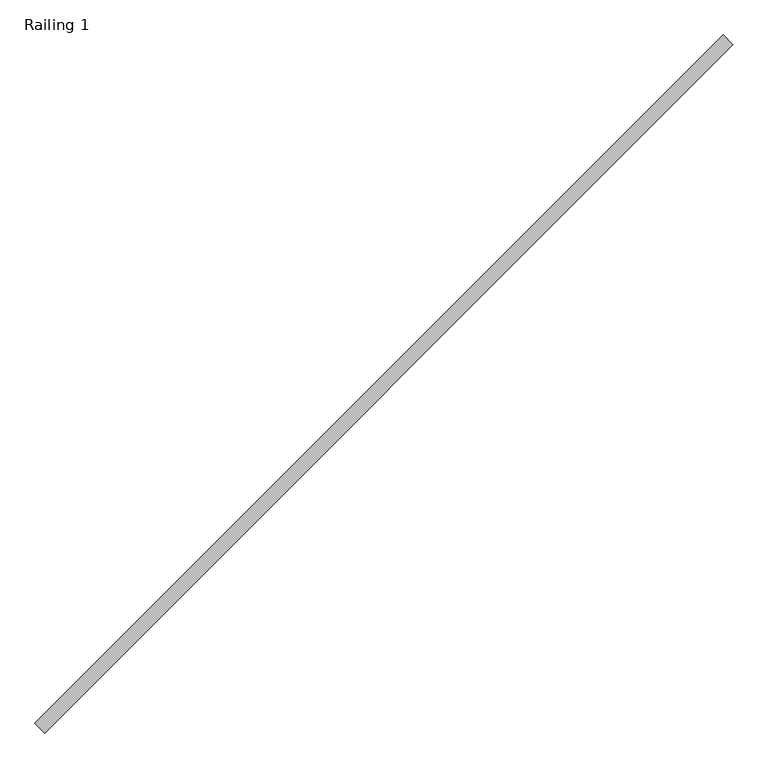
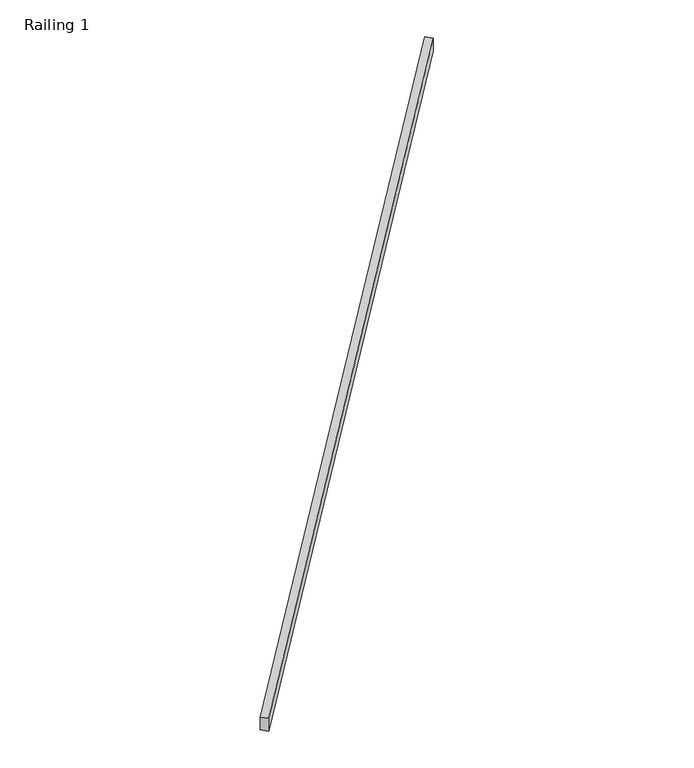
"""IFC4 building model written with IfcOpenShell, lengths in millimetres: railing geometry, Railing 1."""

from ifc_helpers import new_model, si_unit, frame, origin, place, context, project, spatial, polyline, outline, extrude, source, transform, mapped, element, save


def railing_1_8f361b06(model_context):
    return source(origin(), model_context, "Body", "SweptSolid", [
        extrude(outline(polyline([(47.8414773, -76.2), (0.0, 0.0), (4288.7411366, 0.0), (4336.5826139, -76.2), (47.8414773, -76.2)])), frame((-55193.583584, 7683.3979256, -5007.2548403), z_axis=(-0.7071067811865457, 0.7071067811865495, 0.0), x_axis=(0.5988594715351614, 0.598859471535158, 0.5317280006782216)), (0.0, 0.0, 1.0), 50.8),
    ])


if __name__ == "__main__":
    model = new_model("IFC4")
    model_context = context("Model", 3, world=origin())
    ifc_project = project(units=[si_unit("LENGTHUNIT", "METRE", prefix="MILLI")], contexts=[model_context])
    site = spatial("IfcSite", under=ifc_project)
    building = spatial("IfcBuilding", under=site)
    placement = place(None, origin())
    railing_1_shape = railing_1_8f361b06(model_context)
    element("IfcRailing", 1, ObjectType="Railing 1", at=placement, inside=building, context=model_context, shape_type="MappedRepresentation", body=[
        mapped(railing_1_shape, transform((0.0, 0.0, 0.0), x_axis=(1.0, 0.0, 0.0), y_axis=(0.0, 1.0, 0.0), z_axis=(0.0, 0.0, 1.0))),
    ])
    save(model, "model.ifc")
